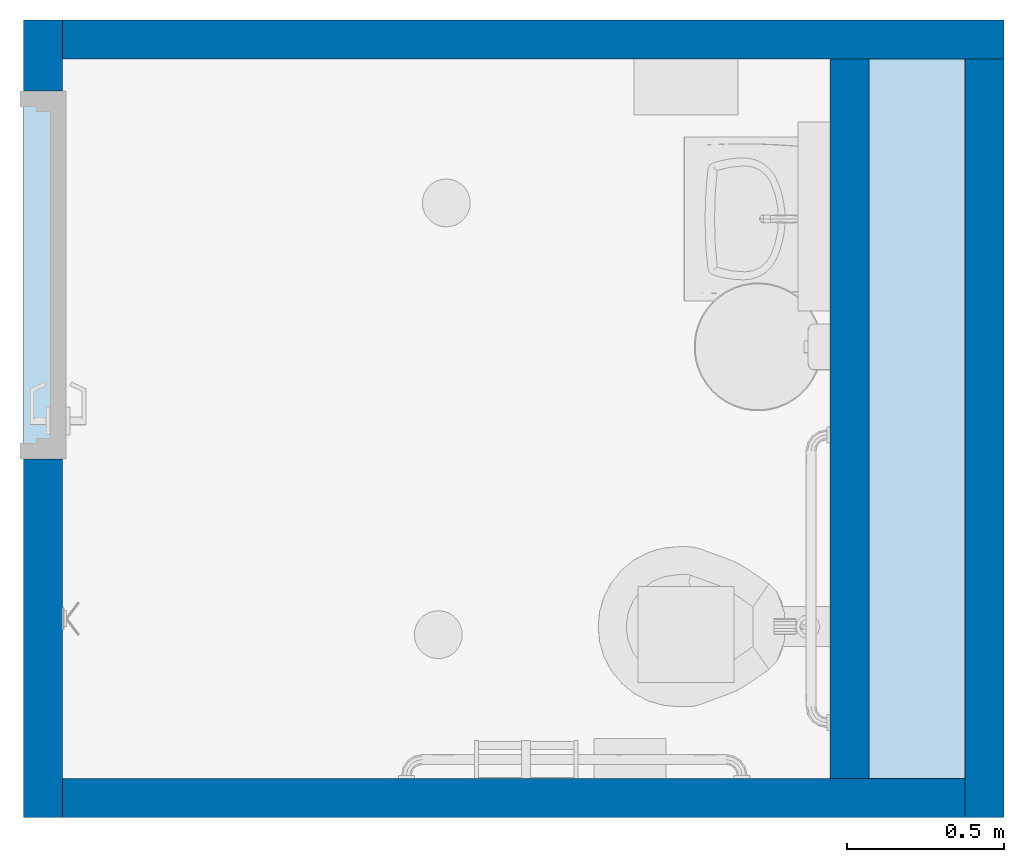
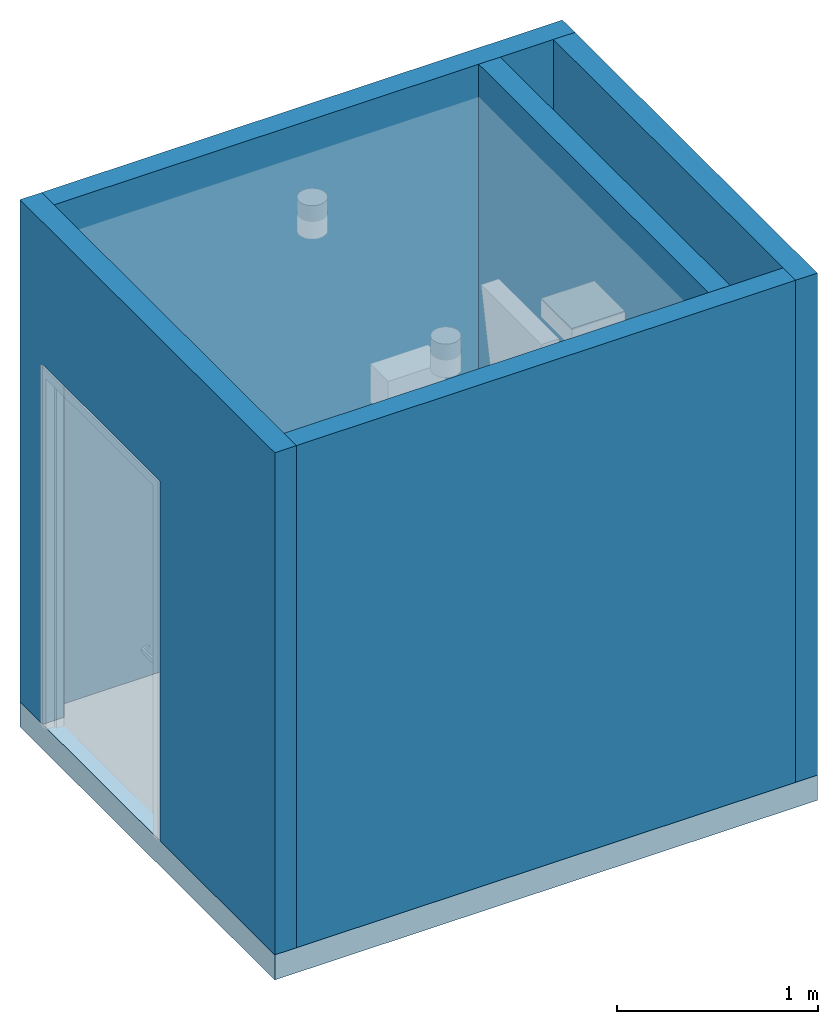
# One storey, part 1 of 7: 5 walls, 1 slab, 1 opening.
"""IFC2X3 building model written with IfcOpenShell, lengths in feet."""

import ifcopenshell
import ifcopenshell.guid

model = None  # the IFC model being written
_history = None  # IfcOwnerHistory: only IFC2X3 demands one
_inside = {}  # id of a spatial element -> (the spatial element, [elements in it])
_under = {}  # id of a project, library or spatial element -> (it, [spatial elements below it])
_declared = {}  # id of a project -> (the project, [libraries it declares])
_typed = {}  # id of a type object -> (the type object, [elements of that type])
_made_of = {}  # id of a material, layer set ... -> (it, [elements and type objects made of it])


def new_model(schema):
    """Start an empty IFC model of exactly this schema.

    Asked for "IFC4X3", IfcOpenShell would pick the latest addendum, in which some entities
    have other attributes; the version numbers below select the first issue.
    IFC2X3 requires an IfcOwnerHistory on every rooted entity: one is made here for all.
    """
    global model, _history
    if schema == "IFC4X3":
        model = ifcopenshell.file(schema_version=(4, 3, 0, 0))
    else:
        model = ifcopenshell.file(schema=schema)
    _inside.clear()
    _under.clear()
    _declared.clear()
    _typed.clear()
    _made_of.clear()
    _history = None
    if model.schema == "IFC2X3":
        org = make("IfcOrganization", Name="unknown")
        user = make(
            "IfcPersonAndOrganization",
            ThePerson=make("IfcPerson", FamilyName="unknown"),
            TheOrganization=org,
        )
        app = make(
            "IfcApplication",
            ApplicationDeveloper=org,
            Version="unknown",
            ApplicationFullName="unknown",
            ApplicationIdentifier="unknown",
        )
        _history = make(
            "IfcOwnerHistory",
            OwningUser=user,
            OwningApplication=app,
            ChangeAction="ADDED",
            CreationDate=0,
        )
    return model


def make(cls, **values):
    """One entity of the class cls with the attributes given. An attribute that is None is left unset."""
    return model.create_entity(
        cls, **{name: value for name, value in values.items() if value is not None}
    )


def entity(cls, *values):
    """Any entity or typed value of the class cls, its attributes in the order of the schema. None: left unset."""
    e = model.create_entity(cls)
    for i, value in enumerate(values):
        if value is not None:
            e[i] = value
    return e


def rooted(cls, **values):
    """An entity with a GlobalId (a new one), such as an element, a storey or a relation."""
    return make(cls, GlobalId=ifcopenshell.guid.new(), OwnerHistory=_history, **values)


def si_unit(unit_type, name, prefix=None):
    """IfcSIUnit, for example si_unit("LENGTHUNIT", "METRE", prefix="MILLI")."""
    return make("IfcSIUnit", UnitType=unit_type, Prefix=prefix, Name=name)


def converted_unit(unit_type, name, factor, base, dimensions=None, offset=None):
    """IfcConversionBasedUnit, such as the inch: factor (a typed value) times the base unit."""
    return make(
        "IfcConversionBasedUnit"
        if offset is None
        else "IfcConversionBasedUnitWithOffset",
        ConversionOffset=offset,
        Dimensions=None
        if dimensions is None
        else entity("IfcDimensionalExponents", *dimensions),
        UnitType=unit_type,
        Name=name,
        ConversionFactor=make(
            "IfcMeasureWithUnit", ValueComponent=factor, UnitComponent=base
        ),
    )


def derived_unit(unit_type, elements):
    """IfcDerivedUnit: a product of units, each with its exponent."""
    return make(
        "IfcDerivedUnit",
        Elements=[
            make("IfcDerivedUnitElement", Unit=unit, Exponent=power)
            for unit, power in elements
        ],
        UnitType=unit_type,
    )


def assignment(units):
    """IfcUnitAssignment: the units of a project."""
    return None if units is None else make("IfcUnitAssignment", Units=units)


def point(xyz):
    """IfcCartesianPoint."""
    return None if xyz is None else make("IfcCartesianPoint", Coordinates=xyz)


def direction(xyz):
    """IfcDirection."""
    return None if xyz is None else make("IfcDirection", DirectionRatios=xyz)


def frame(location, z_axis=None, x_axis=None):
    """IfcAxis2Placement3D, a coordinate frame: its origin and axes. An axis left out is left unset."""
    return make(
        "IfcAxis2Placement3D",
        Location=point(location),
        Axis=direction(z_axis),
        RefDirection=direction(x_axis),
    )


def frame_2d(location, x_axis=None):
    """IfcAxis2Placement2D, a coordinate frame in the plane: its origin and x axis."""
    return make(
        "IfcAxis2Placement2D", Location=point(location), RefDirection=direction(x_axis)
    )


def origin():
    """The frame at (0, 0, 0) with its axes left unset."""
    return frame((0.0, 0.0, 0.0))


def place(relative_to, where):
    """IfcLocalPlacement: puts the frame where relative to a parent placement (None: the world)."""
    return make(
        "IfcLocalPlacement", PlacementRelTo=relative_to, RelativePlacement=where
    )


def context(
    kind, dimensions, precision=None, world=None, true_north=None, identifier=None
):
    """IfcGeometricRepresentationContext, for example the 3D "Model" context."""
    return make(
        "IfcGeometricRepresentationContext",
        ContextIdentifier=identifier,
        ContextType=kind,
        CoordinateSpaceDimension=dimensions,
        Precision=precision,
        WorldCoordinateSystem=world,
        TrueNorth=true_north,
    )


def subcontext(parent, identifier, kind, view, scale=None):
    """IfcGeometricRepresentationSubContext, for example "Body" below "Model"."""
    return make(
        "IfcGeometricRepresentationSubContext",
        ContextIdentifier=identifier,
        ContextType=kind,
        ParentContext=parent,
        TargetScale=scale,
        TargetView=view,
    )


def project(units=None, contexts=None):
    """IfcProject with its units and contexts."""
    return rooted(
        "IfcProject",
        Name="project",
        RepresentationContexts=contexts,
        UnitsInContext=assignment(units),
    )


def spatial(cls, under=None, at=None, **own):
    """A site, building, storey or space (cls), placed at a placement, below another one or the project."""
    s = rooted(cls, ObjectPlacement=at, **own)
    if under is not None:
        _under.setdefault(under.id(), (under, []))[1].append(s)
    return s


def profile(cls, at=None, kind="AREA", **sizes):
    """A parametric profile (cls). Its sizes go by their IFC names, for example OverallWidth=200.0."""
    return make(cls, ProfileType=kind, Position=at, **sizes)


def rectangle(**sizes):
    """IfcRectangleProfileDef."""
    return profile("IfcRectangleProfileDef", **sizes)


def extrude(swept, where, along, depth):
    """IfcExtrudedAreaSolid: the profile swept, set in the frame where, extruded along a direction by depth."""
    return make(
        "IfcExtrudedAreaSolid",
        SweptArea=swept,
        Position=where,
        ExtrudedDirection=direction(along),
        Depth=depth,
    )


def shape(context_of_items, identifier, shape_type, items):
    """IfcShapeRepresentation: the items that make up one representation, for example the "Body"."""
    return make(
        "IfcShapeRepresentation",
        ContextOfItems=context_of_items,
        RepresentationIdentifier=identifier,
        RepresentationType=shape_type,
        Items=items,
    )


def material(Name=None, Category=None):
    """IfcMaterial."""
    return make("IfcMaterial", Name=Name, Category=Category)


def layer(
    of_material, thickness, ventilated=None, Name=None, Category=None, Priority=None
):
    """IfcMaterialLayer: one layer of a wall or slab, of a material (None: an air gap)."""
    return make(
        "IfcMaterialLayer",
        Material=of_material,
        LayerThickness=thickness,
        IsVentilated=ventilated,
        Name=Name,
        Category=Category,
        Priority=Priority,
    )


def layer_set(layers, Name=None):
    """IfcMaterialLayerSet."""
    return make("IfcMaterialLayerSet", MaterialLayers=layers, LayerSetName=Name)


def layer_usage(for_layer_set, set_direction, sense, offset, extent=None):
    """IfcMaterialLayerSetUsage: how a layer set lies in its element."""
    return make(
        "IfcMaterialLayerSetUsage",
        ForLayerSet=for_layer_set,
        LayerSetDirection=set_direction,
        DirectionSense=sense,
        OffsetFromReferenceLine=offset,
        ReferenceExtent=extent,
    )


def made_of(thing, what):
    """Note that an element or type object is made of a material, layer set ...; save() writes the relation."""
    if what is not None:
        _made_of.setdefault(what.id(), (what, []))[1].append(thing)
    return thing


def type_object(cls, material=None, **own):
    """A type object (cls), such as IfcWallType, which elements share."""
    return made_of(rooted(cls, **own), material)


def element(
    cls,
    number,
    at=None,
    inside=None,
    cuts=None,
    type_object=None,
    material=None,
    context=None,
    identifier="Body",
    shape_type=None,
    held_by="IfcProductDefinitionShape",
    body=None,
    shapes=None,
    **own,
):
    """One element of the class cls, such as IfcWall. Its Tag is "e" and its number.

    at: its placement. inside: the storey or other place that contains it. cuts: it is an
    opening in that element (IfcRelVoidsElement). A single representation is given by context,
    identifier, shape_type and body (its items); several are given by shapes. held_by: the class
    of the entity that holds the representations. save() writes the other relations.
    """
    e = rooted(cls, Tag="e%d" % number, ObjectPlacement=at, **own)
    if body is not None:
        shapes = [shape(context, identifier, shape_type, body)]
    if shapes is not None:
        e.Representation = make(held_by, Representations=shapes)
    if inside is not None:
        _inside.setdefault(inside.id(), (inside, []))[1].append(e)
    if cuts is not None:
        rooted(
            "IfcRelVoidsElement", RelatingBuildingElement=cuts, RelatedOpeningElement=e
        )
    if type_object is not None:
        _typed.setdefault(type_object.id(), (type_object, []))[1].append(e)
    return made_of(e, material)


def aggregate(whole, parts):
    """IfcRelAggregates: a whole, such as a stair, and the parts it consists of."""
    return rooted("IfcRelAggregates", RelatingObject=whole, RelatedObjects=parts)


def save(model, path):
    """Write the relations noted so far, then the file.

    IfcRelAggregates (storeys below a building ...), IfcRelContainedInSpatialStructure (elements
    in a storey), IfcRelDefinesByType, IfcRelAssociatesMaterial and IfcRelDeclares: one each for
    every whole, place, type object, material and project.
    """
    for whole, parts in _under.values():
        aggregate(whole, parts)
    for where, things in _inside.values():
        rooted(
            "IfcRelContainedInSpatialStructure",
            RelatedElements=things,
            RelatingStructure=where,
        )
    for kind, things in _typed.values():
        rooted("IfcRelDefinesByType", RelatedObjects=things, RelatingType=kind)
    for what, things in _made_of.values():
        rooted("IfcRelAssociatesMaterial", RelatedObjects=things, RelatingMaterial=what)
    for by, libraries in _declared.values():
        rooted("IfcRelDeclares", RelatingContext=by, RelatedDefinitions=libraries)
    model.write(path)


model = new_model("IFC2X3")

# Units and contexts
model_context = context("Model", 3, precision=0.0001, world=origin(), true_north=direction((6.12303176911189e-17, 1.0)))
body_context = subcontext(model_context, "Body", "Model", "MODEL_VIEW")
ifc_project = project(units=[converted_unit("LENGTHUNIT", "FOOT", entity("IfcRatioMeasure", 0.3048), si_unit("LENGTHUNIT", "METRE"), dimensions=[1, 0, 0, 0, 0, 0, 0]), converted_unit("AREAUNIT", "SQUARE FOOT", entity("IfcRatioMeasure", 0.09290304), si_unit("AREAUNIT", "SQUARE_METRE"), dimensions=[2, 0, 0, 0, 0, 0, 0]), converted_unit("VOLUMEUNIT", "CUBIC FOOT", entity("IfcRatioMeasure", 0.028316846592), si_unit("VOLUMEUNIT", "CUBIC_METRE"), dimensions=[3, 0, 0, 0, 0, 0, 0]), converted_unit("PLANEANGLEUNIT", "DEGREE", entity("IfcRatioMeasure", 0.0174532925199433), si_unit("PLANEANGLEUNIT", "RADIAN"), dimensions=[0, 0, 0, 0, 0, 0, 0]), si_unit("MASSUNIT", "GRAM", prefix="KILO"), derived_unit("MASSDENSITYUNIT", [(si_unit("MASSUNIT", "GRAM", prefix="KILO"), 1), (si_unit("LENGTHUNIT", "METRE"), -3)]), si_unit("TIMEUNIT", "SECOND"), si_unit("FREQUENCYUNIT", "HERTZ"), si_unit("THERMODYNAMICTEMPERATUREUNIT", "DEGREE_CELSIUS"), derived_unit("THERMALTRANSMITTANCEUNIT", [(si_unit("MASSUNIT", "GRAM", prefix="KILO"), 1), (si_unit("THERMODYNAMICTEMPERATUREUNIT", "KELVIN"), -1), (si_unit("TIMEUNIT", "SECOND"), -3)]), derived_unit("VOLUMETRICFLOWRATEUNIT", [(si_unit("LENGTHUNIT", "METRE"), 3), (si_unit("TIMEUNIT", "SECOND"), -1)]), si_unit("ELECTRICCURRENTUNIT", "AMPERE"), si_unit("ELECTRICVOLTAGEUNIT", "VOLT"), si_unit("POWERUNIT", "WATT"), si_unit("FORCEUNIT", "NEWTON"), si_unit("ILLUMINANCEUNIT", "LUX"), si_unit("LUMINOUSFLUXUNIT", "LUMEN"), si_unit("LUMINOUSINTENSITYUNIT", "CANDELA"), derived_unit("USERDEFINED", [(si_unit("MASSUNIT", "GRAM", prefix="KILO"), -1), (si_unit("LENGTHUNIT", "METRE"), -2), (si_unit("TIMEUNIT", "SECOND"), 3), (si_unit("LUMINOUSFLUXUNIT", "LUMEN"), 1)]), derived_unit("LINEARVELOCITYUNIT", [(si_unit("LENGTHUNIT", "METRE"), 1), (si_unit("TIMEUNIT", "SECOND"), -1)]), si_unit("PRESSUREUNIT", "PASCAL"), derived_unit("USERDEFINED", [(si_unit("LENGTHUNIT", "METRE"), -2), (si_unit("MASSUNIT", "GRAM", prefix="KILO"), 1), (si_unit("TIMEUNIT", "SECOND"), -2)])], contexts=[model_context])

# Site, building, storey
site_placement = place(None, origin())
site = spatial("IfcSite", under=ifc_project, at=site_placement, Name="Default", CompositionType="ELEMENT")
building_placement = place(site_placement, origin())
building = spatial("IfcBuilding", under=site, at=building_placement, Name="OUTPATIENT / PACT CLINIC (Ch. 265)", CompositionType="ELEMENT")
storey_placement = place(building_placement, origin())
storey = spatial("IfcBuildingStorey", under=building, at=storey_placement, Name="DATUM", CompositionType="ELEMENT", Elevation=0.0)

# Slab
ifc_material = material(Name="<Unnamed>")
ifc_layer_1 = layer(ifc_material, 0.5)
ifc_layer_set_1 = layer_set([ifc_layer_1], Name="Floor:Generic - 6\"")
ifc_layer_usage_1 = layer_usage(ifc_layer_set_1, "AXIS3", "POSITIVE", 0.0)
slab_placement = place(storey_placement, origin())
element("IfcSlab", 1, at=slab_placement, inside=storey, material=ifc_layer_usage_1, Name="Floor:Generic - 6\"", ObjectType="Floor:Generic - 6\"", PredefinedType="FLOOR", context=body_context, shape_type="SweptSolid", body=[
    extrude(rectangle(XDim=8.31250000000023, YDim=10.21875, at=frame_2d((1.13686837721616e-13, 0.0), x_axis=(1.0, 0.0))), frame((102.096713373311, -857.408656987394, 0.0), z_axis=(0.0, 0.0, -1.0), x_axis=(0.0, 1.0, 0.0)), (0.0, 0.0, 1.0), 0.5),
])

# Wall, opening
ifc_layer_2 = layer(ifc_material, 0.40625)
ifc_layer_set_2 = layer_set([ifc_layer_2], Name="Basic Wall:Interior - 4 7/8\"")
ifc_layer_usage_2 = layer_usage(ifc_layer_set_2, "AXIS2", "NEGATIVE", 0.203125)
wall_type = type_object("IfcWallType", Name="Basic Wall:Interior - 4 7/8\"", PredefinedType="STANDARD", material=ifc_layer_set_2)
wall_1_placement = place(storey_placement, frame((97.1904633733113, -861.564906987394, 0.0), z_axis=(0.0, 0.0, 1.0), x_axis=(0.0, 1.0, 0.0)))
wall_1 = element("IfcWallStandardCase", 2, at=wall_1_placement, inside=storey, type_object=wall_type, material=ifc_layer_usage_2, Name="Basic Wall:Interior - 4 7/8\"", ObjectType="Basic Wall:Interior - 4 7/8\"", context=body_context, shape_type="SweptSolid", body=[
    extrude(rectangle(XDim=8.31250000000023, YDim=0.40625, at=frame_2d((4.15625000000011, -2.66453525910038e-15), x_axis=(-1.0, 0.0))), origin(), (0.0, 0.0, 1.0), 10.0),
])
opening_placement = place(wall_1_placement, frame((7.57291666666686, 0.203124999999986, 0.0)))
element("IfcOpeningElement", 3, at=opening_placement, cuts=wall_1, Name="Single - Flush:42\" x 84\":1", ObjectType="Opening", context=body_context, shape_type="SweptSolid", body=[
    extrude(rectangle(XDim=3.83333333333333, YDim=7.16666666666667, at=frame_2d((3.58333333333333, 1.91666666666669), x_axis=(0.0, -1.0))), frame((0.0, 0.0, 0.0), z_axis=(0.0, -1.0, 0.0), x_axis=(0.0, 0.0, 1.0)), (0.0, 0.0, 1.0), 0.40625),
])

# Walls
ifc_layer_usage_3 = layer_usage(ifc_layer_set_2, "AXIS2", "NEGATIVE", 0.203125)
wall_2_placement = place(storey_placement, frame((97.3935883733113, -853.455531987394, 0.0)))
element("IfcWallStandardCase", 4, at=wall_2_placement, inside=storey, type_object=wall_type, material=ifc_layer_usage_3, Name="Basic Wall:Interior - 4 7/8\"", ObjectType="Basic Wall:Interior - 4 7/8\"", context=body_context, shape_type="SweptSolid", body=[
    extrude(rectangle(XDim=9.81250000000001, YDim=0.40625, at=frame_2d((4.90625000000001, 0.0), x_axis=(-1.0, 0.0))), origin(), (0.0, 0.0, 1.0), 10.0),
])
ifc_layer_usage_4 = layer_usage(ifc_layer_set_2, "AXIS2", "NEGATIVE", 0.203125)
wall_3_placement = place(storey_placement, frame((107.002963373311, -853.658656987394, 0.0), z_axis=(0.0, 0.0, 1.0), x_axis=(0.0, -1.0, 0.0)))
element("IfcWallStandardCase", 5, at=wall_3_placement, inside=storey, type_object=wall_type, material=ifc_layer_usage_4, Name="Basic Wall:Interior - 4 7/8\"", ObjectType="Basic Wall:Interior - 4 7/8\"", context=body_context, shape_type="SweptSolid", body=[
    extrude(rectangle(XDim=7.90625000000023, YDim=0.40625, at=frame_2d((3.95312500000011, 6.24500451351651e-15), x_axis=(-1.0, 0.0))), origin(), (0.0, 0.0, 1.0), 10.0),
])
ifc_layer_usage_5 = layer_usage(ifc_layer_set_2, "AXIS2", "POSITIVE", -0.203125)
wall_4_placement = place(storey_placement, frame((97.3935883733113, -861.361781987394, 0.0)))
element("IfcWallStandardCase", 6, at=wall_4_placement, inside=storey, type_object=wall_type, material=ifc_layer_usage_5, Name="Basic Wall:Interior - 4 7/8\"", ObjectType="Basic Wall:Interior - 4 7/8\"", context=body_context, shape_type="SweptSolid", body=[
    extrude(rectangle(XDim=9.40625000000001, YDim=0.40625, at=frame_2d((4.70312500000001, 0.0), x_axis=(-1.0, 0.0))), origin(), (0.0, 0.0, 1.0), 10.0),
])
ifc_layer_usage_6 = layer_usage(ifc_layer_set_2, "AXIS2", "NEGATIVE", 0.203125)
wall_5_placement = place(storey_placement, frame((105.596713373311, -853.658656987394, 0.0), z_axis=(0.0, 0.0, 1.0), x_axis=(0.0, -1.0, 0.0)))
element("IfcWallStandardCase", 7, at=wall_5_placement, inside=storey, type_object=wall_type, material=ifc_layer_usage_6, Name="Basic Wall:Interior - 4 7/8\"", ObjectType="Basic Wall:Interior - 4 7/8\"", context=body_context, shape_type="SweptSolid", body=[
    extrude(rectangle(XDim=7.50000000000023, YDim=0.40625, at=frame_2d((3.75000000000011, 1.23512311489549e-15), x_axis=(-1.0, 0.0))), origin(), (0.0, 0.0, 1.0), 10.0),
])

save(model, "model.ifc")
